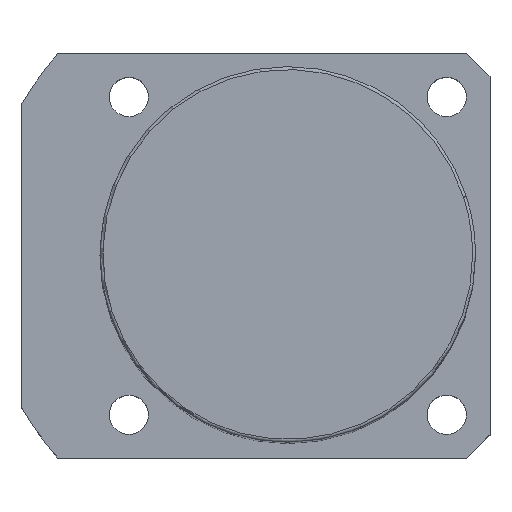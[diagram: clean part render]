
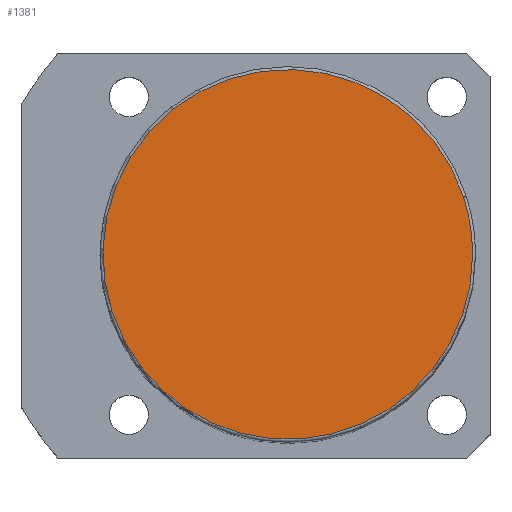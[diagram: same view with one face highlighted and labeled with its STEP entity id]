
A CAD part, top view. The second image highlights one B-rep face of the part: STEP entity #1381.
In plain terms, the highlighted planar face has unit normal (0, 0, 1).
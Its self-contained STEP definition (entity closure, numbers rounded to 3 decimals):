
#1347=CARTESIAN_POINT('',(32.0,0.0,156.0));
#1348=VERTEX_POINT('',#1347);
#1349=CARTESIAN_POINT('',(30.434,9.889,156.0));
#1350=VERTEX_POINT('',#1349);
#1351=CARTESIAN_POINT('',(0.0,0.0,156.0));
#1352=DIRECTION('',(0.0,0.0,1.0));
#1353=DIRECTION('',(1.0,0.0,0.0));
#1354=AXIS2_PLACEMENT_3D('',#1351,#1352,#1353);
#1355=CIRCLE('',#1354,32.0);
#1356=EDGE_CURVE('no 1894',#1348,#1350,#1355,.T.);
#1357=ORIENTED_EDGE('',*,*,#1356,.T.);
#1358=CARTESIAN_POINT('',(-30.434,-9.889,156.0));
#1359=VERTEX_POINT('',#1358);
#1360=CARTESIAN_POINT('',(0.0,0.0,156.0));
#1361=DIRECTION('',(0.0,0.0,1.0));
#1362=DIRECTION('',(1.0,0.0,0.0));
#1363=AXIS2_PLACEMENT_3D('',#1360,#1361,#1362);
#1364=CIRCLE('',#1363,32.0);
#1365=EDGE_CURVE('no 1900',#1350,#1359,#1364,.T.);
#1366=ORIENTED_EDGE('',*,*,#1365,.T.);
#1367=CARTESIAN_POINT('',(0.0,0.0,156.0));
#1368=DIRECTION('',(0.0,0.0,1.0));
#1369=DIRECTION('',(1.0,0.0,0.0));
#1370=AXIS2_PLACEMENT_3D('',#1367,#1368,#1369);
#1371=CIRCLE('',#1370,32.0);
#1372=EDGE_CURVE('no 1904',#1359,#1348,#1371,.T.);
#1373=ORIENTED_EDGE('',*,*,#1372,.T.);
#1374=EDGE_LOOP('',(#1357,#1366,#1373));
#1375=FACE_OUTER_BOUND('',#1374,.T.);
#1376=CARTESIAN_POINT('',(0.0,0.0,156.0));
#1377=DIRECTION('',(0.0,0.0,1.0));
#1378=DIRECTION('',(1.0,0.0,0.0));
#1379=AXIS2_PLACEMENT_3D('',#1376,#1377,#1378);
#1380=PLANE('',#1379);
#1381=ADVANCED_FACE('no 1885',(#1375),#1380,.T.);
